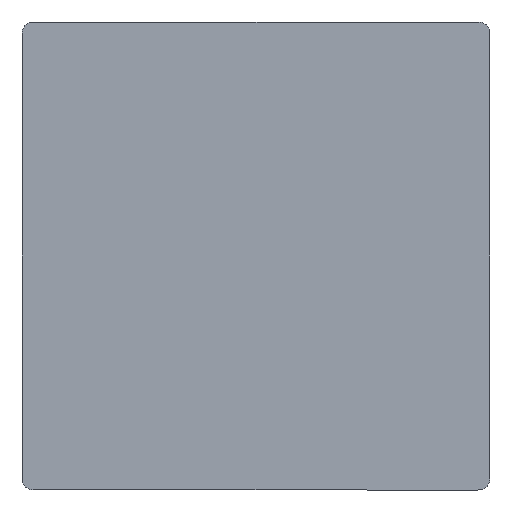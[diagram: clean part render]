
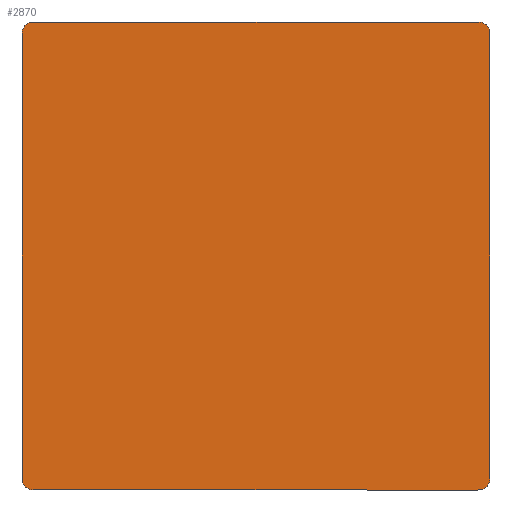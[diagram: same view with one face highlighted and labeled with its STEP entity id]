
A CAD part, front view. The second image highlights one B-rep face of the part: STEP entity #2870.
In plain terms, the highlighted planar face has unit normal (0, -1, 0).
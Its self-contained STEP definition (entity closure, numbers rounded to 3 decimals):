
#23 = VECTOR ( 'NONE', #3059, 1000. ) ;
#181 = VERTEX_POINT ( 'NONE', #3507 ) ;
#249 = B_SPLINE_CURVE_WITH_KNOTS ( 'NONE', 3,
 ( #3688, #2195, #1005, #3321 ),
 .UNSPECIFIED., .F., .F.,
 ( 4, 4 ),
 ( 0., 1. ),
 .UNSPECIFIED. ) ;
#253 = CARTESIAN_POINT ( 'NONE',  ( -9.1, 0., -8.934 ) ) ;
#296 = CARTESIAN_POINT ( 'NONE',  ( -8.602, 0., 9.1 ) ) ;
#311 = CARTESIAN_POINT ( 'NONE',  ( 8.602, 0., 9.1 ) ) ;
#339 = CARTESIAN_POINT ( 'NONE',  ( -8.934, 0., 9.1 ) ) ;
#356 = LINE ( 'NONE', #677, #624 ) ;
#379 = VERTEX_POINT ( 'NONE', #1667 ) ;
#454 = ORIENTED_EDGE ( 'NONE', *, *, #3528, .F. ) ;
#484 = CARTESIAN_POINT ( 'NONE',  ( -9.1, 0., -9.1 ) ) ;
#624 = VECTOR ( 'NONE', #2693, 1000. ) ;
#628 = EDGE_CURVE ( 'NONE', #2264, #3829, #1326, .T. ) ;
#677 = CARTESIAN_POINT ( 'NONE',  ( 9.1, 0., -9.1 ) ) ;
#685 = AXIS2_PLACEMENT_3D ( 'NONE', #1023, #1002, #2780 ) ;
#783 = VERTEX_POINT ( 'NONE', #2506 ) ;
#901 = DIRECTION ( 'NONE',  ( 1., 0., 0. ) ) ;
#1002 = DIRECTION ( 'NONE',  ( 0., -1., 0. ) ) ;
#1005 = CARTESIAN_POINT ( 'NONE',  ( 9.1, 0., -8.934 ) ) ;
#1023 = CARTESIAN_POINT ( 'NONE',  ( 0., 0., 0. ) ) ;
#1055 = ORIENTED_EDGE ( 'NONE', *, *, #3403, .T. ) ;
#1059 = VECTOR ( 'NONE', #901, 1000. ) ;
#1326 = LINE ( 'NONE', #3669, #23 ) ;
#1395 = B_SPLINE_CURVE_WITH_KNOTS ( 'NONE', 3,
 ( #3305, #339, #1568, #3006 ),
 .UNSPECIFIED., .F., .F.,
 ( 4, 4 ),
 ( 0., 1. ),
 .UNSPECIFIED. ) ;
#1415 = ORIENTED_EDGE ( 'NONE', *, *, #2514, .T. ) ;
#1429 = CARTESIAN_POINT ( 'NONE',  ( -8.602, 0., -9.1 ) ) ;
#1508 = CARTESIAN_POINT ( 'NONE',  ( -8.602, 0., -9.1 ) ) ;
#1568 = CARTESIAN_POINT ( 'NONE',  ( -9.1, 0., 8.934 ) ) ;
#1615 = EDGE_CURVE ( 'NONE', #2264, #3134, #249, .T. ) ;
#1656 = FACE_OUTER_BOUND ( 'NONE', #2535, .T. ) ;
#1667 = CARTESIAN_POINT ( 'NONE',  ( -9.1, 0., 8.602 ) ) ;
#1720 = B_SPLINE_CURVE_WITH_KNOTS ( 'NONE', 3,
 ( #1723, #253, #3524, #1429 ),
 .UNSPECIFIED., .F., .F.,
 ( 4, 4 ),
 ( 0., 1. ),
 .UNSPECIFIED. ) ;
#1723 = CARTESIAN_POINT ( 'NONE',  ( -9.1, 0., -8.602 ) ) ;
#2010 = EDGE_CURVE ( 'NONE', #2996, #379, #3176, .T. ) ;
#2034 = CARTESIAN_POINT ( 'NONE',  ( 9.1, 0., 8.602 ) ) ;
#2168 = VERTEX_POINT ( 'NONE', #296 ) ;
#2179 = EDGE_CURVE ( 'NONE', #783, #181, #3262, .T. ) ;
#2195 = CARTESIAN_POINT ( 'NONE',  ( 8.934, 0., -9.1 ) ) ;
#2264 = VERTEX_POINT ( 'NONE', #2281 ) ;
#2281 = CARTESIAN_POINT ( 'NONE',  ( 8.602, 0., -9.1 ) ) ;
#2307 = VECTOR ( 'NONE', #2526, 1000. ) ;
#2330 = CARTESIAN_POINT ( 'NONE',  ( 9.1, 0., 8.934 ) ) ;
#2506 = CARTESIAN_POINT ( 'NONE',  ( 9.1, 0., 8.602 ) ) ;
#2514 = EDGE_CURVE ( 'NONE', #2168, #379, #1395, .T. ) ;
#2526 = DIRECTION ( 'NONE',  ( 0., 0., 1. ) ) ;
#2535 = EDGE_LOOP ( 'NONE', ( #3407, #1415, #2597, #1055, #2891, #3174, #454, #3527 ) ) ;
#2597 = ORIENTED_EDGE ( 'NONE', *, *, #2010, .F. ) ;
#2693 = DIRECTION ( 'NONE',  ( 0., 0., -1. ) ) ;
#2780 = DIRECTION ( 'NONE',  ( 0., 0., -1. ) ) ;
#2870 = ADVANCED_FACE ( 'NONE', ( #1656 ), #3114, .T. ) ;
#2891 = ORIENTED_EDGE ( 'NONE', *, *, #628, .F. ) ;
#2952 = LINE ( 'NONE', #3590, #1059 ) ;
#2996 = VERTEX_POINT ( 'NONE', #3192 ) ;
#3006 = CARTESIAN_POINT ( 'NONE',  ( -9.1, 0., 8.602 ) ) ;
#3059 = DIRECTION ( 'NONE',  ( -1., 0., 0. ) ) ;
#3114 = PLANE ( 'NONE',  #685 ) ;
#3134 = VERTEX_POINT ( 'NONE', #3233 ) ;
#3174 = ORIENTED_EDGE ( 'NONE', *, *, #1615, .T. ) ;
#3176 = LINE ( 'NONE', #484, #2307 ) ;
#3192 = CARTESIAN_POINT ( 'NONE',  ( -9.1, 0., -8.602 ) ) ;
#3232 = CARTESIAN_POINT ( 'NONE',  ( 8.934, 0., 9.1 ) ) ;
#3233 = CARTESIAN_POINT ( 'NONE',  ( 9.1, 0., -8.602 ) ) ;
#3235 = EDGE_CURVE ( 'NONE', #2168, #181, #2952, .T. ) ;
#3262 = B_SPLINE_CURVE_WITH_KNOTS ( 'NONE', 3,
 ( #2034, #2330, #3232, #311 ),
 .UNSPECIFIED., .F., .F.,
 ( 4, 4 ),
 ( 0., 1. ),
 .UNSPECIFIED. ) ;
#3305 = CARTESIAN_POINT ( 'NONE',  ( -8.602, 0., 9.1 ) ) ;
#3321 = CARTESIAN_POINT ( 'NONE',  ( 9.1, 0., -8.602 ) ) ;
#3403 = EDGE_CURVE ( 'NONE', #2996, #3829, #1720, .T. ) ;
#3407 = ORIENTED_EDGE ( 'NONE', *, *, #3235, .F. ) ;
#3507 = CARTESIAN_POINT ( 'NONE',  ( 8.602, 0., 9.1 ) ) ;
#3524 = CARTESIAN_POINT ( 'NONE',  ( -8.934, 0., -9.1 ) ) ;
#3527 = ORIENTED_EDGE ( 'NONE', *, *, #2179, .T. ) ;
#3528 = EDGE_CURVE ( 'NONE', #783, #3134, #356, .T. ) ;
#3590 = CARTESIAN_POINT ( 'NONE',  ( 9.1, 0., 9.1 ) ) ;
#3669 = CARTESIAN_POINT ( 'NONE',  ( 9.1, 0., -9.1 ) ) ;
#3688 = CARTESIAN_POINT ( 'NONE',  ( 8.602, 0., -9.1 ) ) ;
#3829 = VERTEX_POINT ( 'NONE', #1508 ) ;
